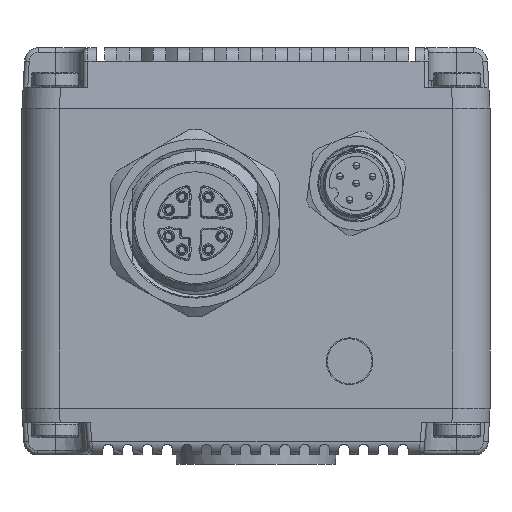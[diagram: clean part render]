
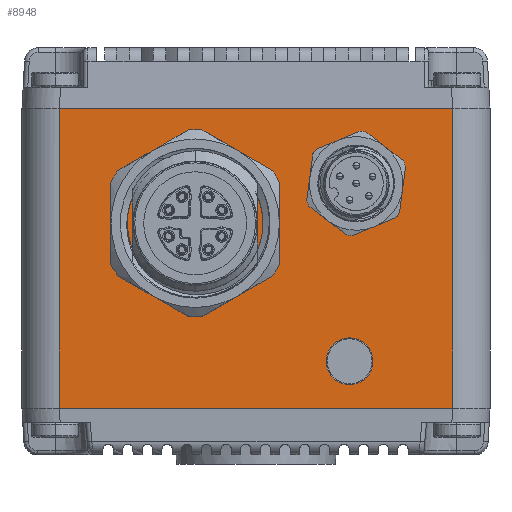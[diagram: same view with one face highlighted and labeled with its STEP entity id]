
A CAD part, left-side view. The second image highlights one B-rep face of the part: STEP entity #8948.
In plain terms, the highlighted planar face has unit normal (-1, 0, 0).
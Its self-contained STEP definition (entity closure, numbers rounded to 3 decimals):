
#874=FACE_BOUND('',#13387,.T.);
#875=FACE_BOUND('',#13388,.T.);
#2567=CIRCLE('',#35677,2.5);
#3986=LINE('',#79764,#6370);
#3988=LINE('',#79775,#6372);
#4007=LINE('',#79871,#6391);
#4008=LINE('',#79872,#6392);
#6370=VECTOR('',#41633,1.);
#6372=VECTOR('',#41639,1.);
#6391=VECTOR('',#41692,1.);
#6392=VECTOR('',#41693,1.);
#8948=ADVANCED_FACE('',(#874,#875),#10112,.T.);
#10112=PLANE('',#35678);
#13387=EDGE_LOOP('',(#19687));
#13388=EDGE_LOOP('',(#19688,#19689,#19690,#19691));
#19687=ORIENTED_EDGE('',*,*,#30457,.F.);
#19688=ORIENTED_EDGE('',*,*,#30458,.F.);
#19689=ORIENTED_EDGE('',*,*,#30422,.T.);
#19690=ORIENTED_EDGE('',*,*,#30459,.T.);
#19691=ORIENTED_EDGE('',*,*,#30418,.F.);
#26192=VERTEX_POINT('',#79763);
#26193=VERTEX_POINT('',#79765);
#26196=VERTEX_POINT('',#79776);
#26197=VERTEX_POINT('',#79777);
#26225=VERTEX_POINT('',#79870);
#30418=EDGE_CURVE('',#26192,#26193,#3986,.T.);
#30422=EDGE_CURVE('',#26196,#26197,#3988,.T.);
#30457=EDGE_CURVE('',#26225,#26225,#2567,.T.);
#30458=EDGE_CURVE('',#26196,#26192,#4007,.T.);
#30459=EDGE_CURVE('',#26197,#26193,#4008,.T.);
#35677=AXIS2_PLACEMENT_3D('',#79869,#41690,#41691);
#35678=AXIS2_PLACEMENT_3D('',#79873,#41694,#41695);
#41633=DIRECTION('',(0.,0.,-1.));
#41639=DIRECTION('',(0.,0.,-1.));
#41690=DIRECTION('',(-1.,0.,0.));
#41691=DIRECTION('',(0.,0.,1.));
#41692=DIRECTION('',(0.,-1.,0.));
#41693=DIRECTION('',(0.,-1.,0.));
#41694=DIRECTION('',(-1.,0.,0.));
#41695=DIRECTION('',(0.,1.,0.));
#79763=CARTESIAN_POINT('',(-59.,-21.,11.));
#79764=CARTESIAN_POINT('',(-59.,-21.,11.));
#79765=CARTESIAN_POINT('',(-59.,-21.,-21.));
#79775=CARTESIAN_POINT('',(-59.,21.,11.));
#79776=CARTESIAN_POINT('',(-59.,21.003,11.));
#79777=CARTESIAN_POINT('',(-59.,21.,-21.));
#79869=CARTESIAN_POINT('',(-59.,-10.,-16.));
#79870=CARTESIAN_POINT('',(-59.,-10.,-13.5));
#79871=CARTESIAN_POINT('',(-59.,21.,11.));
#79872=CARTESIAN_POINT('',(-59.,21.,-21.));
#79873=CARTESIAN_POINT('',(-59.,25.,-26.));
